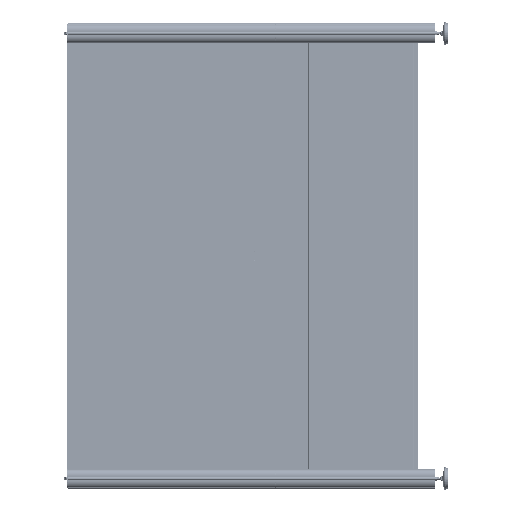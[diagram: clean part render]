
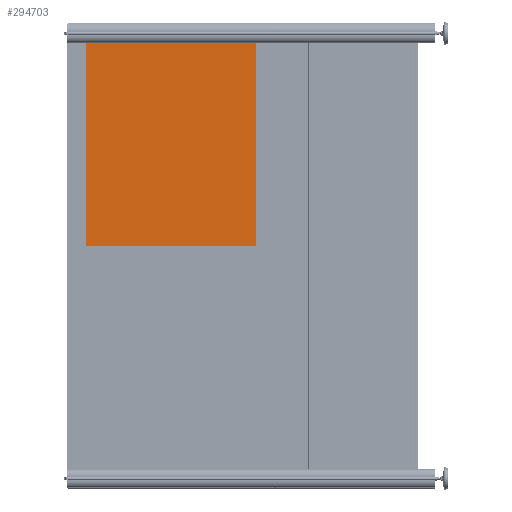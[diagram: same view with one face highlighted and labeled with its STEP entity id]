
A CAD part, left-side view. The second image highlights one B-rep face of the part: STEP entity #294703.
In plain terms, the highlighted planar face has unit normal (-1, 0, 0) as drawn and (0, 0, -1) by its records, which use the part's own axes.
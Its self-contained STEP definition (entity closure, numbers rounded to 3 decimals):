
#32435 = ORIENTED_EDGE ( 'NONE', *, *, #124478, .F. ) ;
#32437 = ORIENTED_EDGE ( 'NONE', *, *, #124604, .F. ) ;
#32439 = ORIENTED_EDGE ( 'NONE', *, *, #124565, .F. ) ;
#32442 = ORIENTED_EDGE ( 'NONE', *, *, #124526, .F. ) ;
#54412 = EDGE_LOOP ( 'NONE', ( #32435, #32437, #32439, #32442 ) ) ;
#124478 = EDGE_CURVE ( 'NONE', #648264, #648272, #148278, .T. ) ;
#124526 = EDGE_CURVE ( 'NONE', #648272, #648292, #148367, .T. ) ;
#124565 = EDGE_CURVE ( 'NONE', #648292, #648304, #148437, .T. ) ;
#124604 = EDGE_CURVE ( 'NONE', #648304, #648264, #148507, .T. ) ;
#148160 = VECTOR ( 'NONE', #214739, 1000. ) ;
#148278 = LINE ( 'NONE', #214677, #148160 ) ;
#148355 = VECTOR ( 'NONE', #214841, 1000. ) ;
#148367 = LINE ( 'NONE', #214836, #148355 ) ;
#148425 = VECTOR ( 'NONE', #214915, 1000. ) ;
#148437 = LINE ( 'NONE', #214911, #148425 ) ;
#148497 = VECTOR ( 'NONE', #214990, 1000. ) ;
#148507 = LINE ( 'NONE', #214986, #148497 ) ;
#214677 = CARTESIAN_POINT ( 'NONE',  ( -542.5, 454.5, -2. ) ) ;
#214739 = DIRECTION ( 'NONE',  ( 0., -1., 0. ) ) ;
#214836 = CARTESIAN_POINT ( 'NONE',  ( -542.5, -454.5, -2. ) ) ;
#214841 = DIRECTION ( 'NONE',  ( 1., 0., 0. ) ) ;
#214911 = CARTESIAN_POINT ( 'NONE',  ( 542.5, 454.5, -2. ) ) ;
#214915 = DIRECTION ( 'NONE',  ( 0., 1., 0. ) ) ;
#214986 = CARTESIAN_POINT ( 'NONE',  ( -542.5, 454.5, -2. ) ) ;
#214990 = DIRECTION ( 'NONE',  ( -1., 0., 0. ) ) ;
#234183 = CARTESIAN_POINT ( 'NONE',  ( -542.5, 454.5, -2. ) ) ;
#234191 = CARTESIAN_POINT ( 'NONE',  ( -542.5, -454.5, -2. ) ) ;
#234215 = CARTESIAN_POINT ( 'NONE',  ( 542.5, -454.5, -2. ) ) ;
#234233 = CARTESIAN_POINT ( 'NONE',  ( 542.5, 454.5, -2. ) ) ;
#294703 = ADVANCED_FACE ( 'NONE', ( #389153 ), #417866, .F. ) ;
#352088 = AXIS2_PLACEMENT_3D ( 'NONE', #417862, #417872, #417875 ) ;
#389153 = FACE_OUTER_BOUND ( 'NONE', #54412, .T. ) ;
#417862 = CARTESIAN_POINT ( 'NONE',  ( -542.5, -454.5, -2. ) ) ;
#417866 = PLANE ( 'NONE',  #352088 ) ;
#417872 = DIRECTION ( 'NONE',  ( 0., 0., 1. ) ) ;
#417875 = DIRECTION ( 'NONE',  ( 1., 0., 0. ) ) ;
#648264 = VERTEX_POINT ( 'NONE', #234183 ) ;
#648272 = VERTEX_POINT ( 'NONE', #234191 ) ;
#648292 = VERTEX_POINT ( 'NONE', #234215 ) ;
#648304 = VERTEX_POINT ( 'NONE', #234233 ) ;
